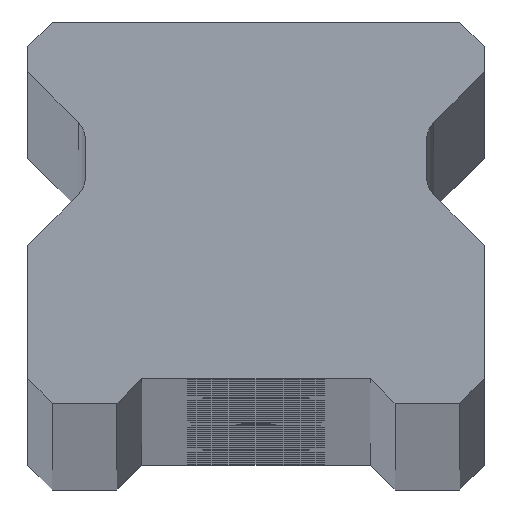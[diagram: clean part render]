
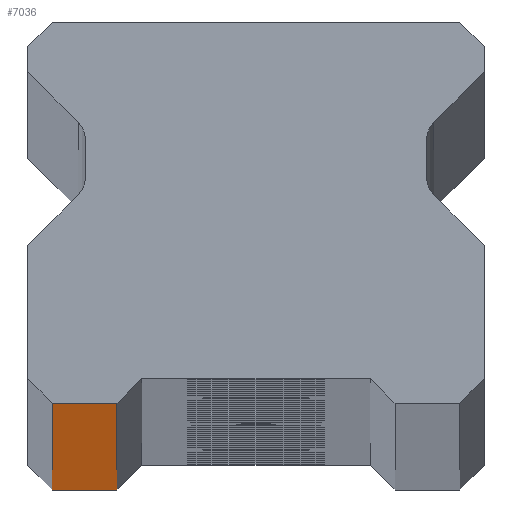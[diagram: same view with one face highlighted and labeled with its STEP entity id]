
A CAD part, top view. The second image highlights one B-rep face of the part: STEP entity #7036.
In plain terms, the highlighted planar face has unit normal (0, -1, 0).
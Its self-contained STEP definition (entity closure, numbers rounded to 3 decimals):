
#95 = VERTEX_POINT ( 'NONE', #4478 ) ;
#146 = VECTOR ( 'NONE', #681, 1000. ) ;
#187 = AXIS2_PLACEMENT_3D ( 'NONE', #2048, #2617, #5587 ) ;
#192 = LINE ( 'NONE', #2142, #6776 ) ;
#290 = CARTESIAN_POINT ( 'NONE',  ( 11.5, 0., 1250. ) ) ;
#681 = DIRECTION ( 'NONE',  ( 1., 0., 0. ) ) ;
#739 = CARTESIAN_POINT ( 'NONE',  ( -10.25, 0., 1250. ) ) ;
#890 = VERTEX_POINT ( 'NONE', #7337 ) ;
#1120 = FACE_OUTER_BOUND ( 'NONE', #7262, .T. ) ;
#1240 = CARTESIAN_POINT ( 'NONE',  ( 11.5, 0., -1250. ) ) ;
#1560 = EDGE_CURVE ( 'NONE', #5943, #4469, #6692, .T. ) ;
#2048 = CARTESIAN_POINT ( 'NONE',  ( 11.5, 0., 1250. ) ) ;
#2142 = CARTESIAN_POINT ( 'NONE',  ( -10.25, 0., 1250. ) ) ;
#2564 = EDGE_CURVE ( 'NONE', #5943, #890, #192, .T. ) ;
#2617 = DIRECTION ( 'NONE',  ( 0., 1., 0. ) ) ;
#2874 = CARTESIAN_POINT ( 'NONE',  ( -7., 0., -1250. ) ) ;
#3649 = CARTESIAN_POINT ( 'NONE',  ( -7., 0., 1250. ) ) ;
#4054 = DIRECTION ( 'NONE',  ( 0., 0., 1. ) ) ;
#4110 = EDGE_CURVE ( 'NONE', #95, #4469, #4440, .T. ) ;
#4440 = LINE ( 'NONE', #2874, #6375 ) ;
#4469 = VERTEX_POINT ( 'NONE', #3649 ) ;
#4478 = CARTESIAN_POINT ( 'NONE',  ( -7., 0., -1250. ) ) ;
#4772 = LINE ( 'NONE', #1240, #146 ) ;
#4909 = PLANE ( 'NONE',  #187 ) ;
#4937 = VECTOR ( 'NONE', #6535, 1000. ) ;
#5082 = ORIENTED_EDGE ( 'NONE', *, *, #4110, .T. ) ;
#5346 = ORIENTED_EDGE ( 'NONE', *, *, #2564, .T. ) ;
#5587 = DIRECTION ( 'NONE',  ( -1., 0., 0. ) ) ;
#5943 = VERTEX_POINT ( 'NONE', #739 ) ;
#6083 = ORIENTED_EDGE ( 'NONE', *, *, #6730, .T. ) ;
#6164 = DIRECTION ( 'NONE',  ( 0., 0., -1. ) ) ;
#6375 = VECTOR ( 'NONE', #4054, 1000. ) ;
#6535 = DIRECTION ( 'NONE',  ( 1., 0., 0. ) ) ;
#6692 = LINE ( 'NONE', #290, #4937 ) ;
#6730 = EDGE_CURVE ( 'NONE', #890, #95, #4772, .T. ) ;
#6776 = VECTOR ( 'NONE', #6164, 1000. ) ;
#6866 = ORIENTED_EDGE ( 'NONE', *, *, #1560, .F. ) ;
#7036 = ADVANCED_FACE ( 'NONE', ( #1120 ), #4909, .F. ) ;
#7262 = EDGE_LOOP ( 'NONE', ( #6083, #5082, #6866, #5346 ) ) ;
#7337 = CARTESIAN_POINT ( 'NONE',  ( -10.25, 0., -1250. ) ) ;
